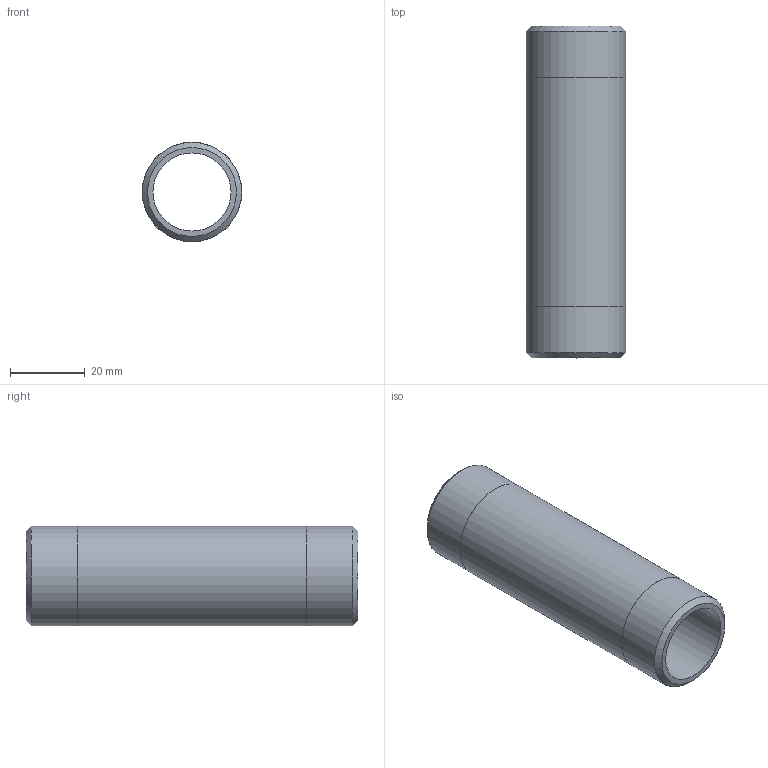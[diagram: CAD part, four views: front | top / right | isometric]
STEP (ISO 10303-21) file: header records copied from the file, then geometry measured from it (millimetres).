
FILE_DESCRIPTION(/* description */ (''),/* implementation_level */ '2;1');
FILE_NAME(/* name */ 'C:/Users/drich/Desktop/BPN34-3-1_2 v1.step',/* time_stamp */ '2020-01-03T15:17:30-06:00',/* author */ (''),/* organization */ (''),/* preprocessor_version */ 'ST-DEVELOPER v18',/* originating_system */ 'Autodesk Translation Framework v8.12.0.6',/* authorisation */ '');
FILE_SCHEMA (('AUTOMOTIVE_DESIGN { 1 0 10303 214 3 1 1 }'));
Length unit declared in the file: inch
Products named in the file (1): BPN34-3-1_2
Bounding box: 26.67 x 88.9 x 26.67 mm (x, y, z)
Volume: 18861.8 mm3; surface area: 13576.8 mm2
Topology: 1 solids, 1 shells, 10 faces, 24 edges, 18 vertices
Faces by surface type: cylinder 4, plane 4, cone 2
Full cylindrical faces by diameter (mm): 20.93 x1, 26.619 x2, 26.67 x1
Entity records: 360 total; most frequent: DIRECTION 64, CARTESIAN_POINT 53, ORIENTED_EDGE 48, AXIS2_PLACEMENT_3D 29, EDGE_CURVE 24, CIRCLE 18, VERTEX_POINT 18, EDGE_LOOP 14
